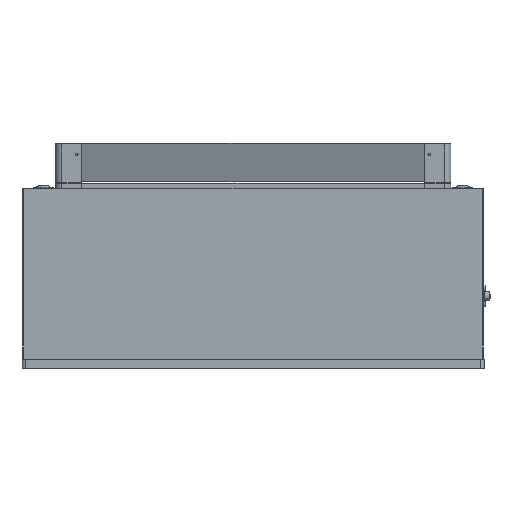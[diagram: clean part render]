
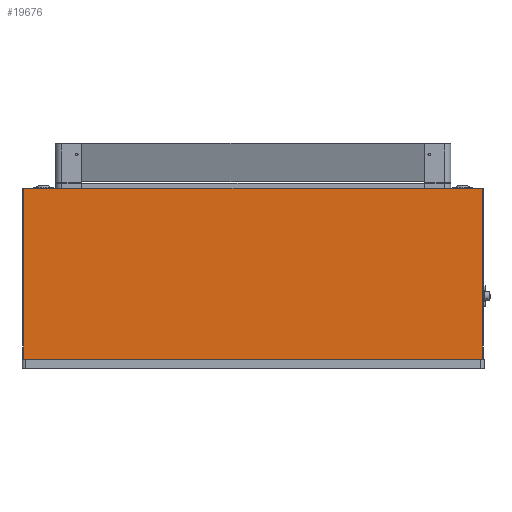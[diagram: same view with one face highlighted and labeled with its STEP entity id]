
A CAD part, front view. The second image highlights one B-rep face of the part: STEP entity #19676.
In plain terms, the highlighted planar face has unit normal (0, -1, 0) as drawn and (0, 0, -1) by its records, which use the part's own axes.
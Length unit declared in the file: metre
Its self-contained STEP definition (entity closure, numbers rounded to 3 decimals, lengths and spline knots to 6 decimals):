
#1118=LINE('',#36958,#2443);
#1121=LINE('',#36964,#2446);
#1124=LINE('',#36970,#2449);
#1127=LINE('',#36976,#2452);
#2443=VECTOR('',#26837,1.);
#2446=VECTOR('',#26842,1.);
#2449=VECTOR('',#26847,1.);
#2452=VECTOR('',#26852,1.);
#3867=PLANE('',#22212);
#7750=ORIENTED_EDGE('',*,*,#10993,.T.);
#7751=ORIENTED_EDGE('',*,*,#10990,.T.);
#7752=ORIENTED_EDGE('',*,*,#10987,.F.);
#7753=ORIENTED_EDGE('',*,*,#10996,.F.);
#10987=EDGE_CURVE('',#13021,#13023,#1118,.T.);
#10990=EDGE_CURVE('',#13025,#13023,#1121,.T.);
#10993=EDGE_CURVE('',#13027,#13025,#1124,.T.);
#10996=EDGE_CURVE('',#13027,#13021,#1127,.T.);
#13021=VERTEX_POINT('',#36956);
#13023=VERTEX_POINT('',#36959);
#13025=VERTEX_POINT('',#36965);
#13027=VERTEX_POINT('',#36971);
#15872=EDGE_LOOP('',(#7750,#7751,#7752,#7753));
#17806=FACE_BOUND('',#15872,.T.);
#19676=ADVANCED_FACE('',(#17806),#3867,.F.);
#22212=AXIS2_PLACEMENT_3D('',#36979,#26856,#26857);
#26837=DIRECTION('',(0.,-1.,0.));
#26842=DIRECTION('',(-1.,0.,0.));
#26847=DIRECTION('',(0.,-1.,0.));
#26852=DIRECTION('',(-1.,0.,0.));
#26856=DIRECTION('',(0.,0.,1.));
#26857=DIRECTION('',(1.,0.,0.));
#36956=CARTESIAN_POINT('',(-0.3495,0.1295,0.));
#36958=CARTESIAN_POINT('',(-0.3495,0.,0.));
#36959=CARTESIAN_POINT('',(-0.3495,-0.1295,0.));
#36964=CARTESIAN_POINT('',(0.,-0.1295,0.));
#36965=CARTESIAN_POINT('',(0.3495,-0.1295,0.));
#36970=CARTESIAN_POINT('',(0.3495,0.,0.));
#36971=CARTESIAN_POINT('',(0.3495,0.1295,0.));
#36976=CARTESIAN_POINT('',(0.,0.1295,0.));
#36979=CARTESIAN_POINT('',(0.,0.,0.));
